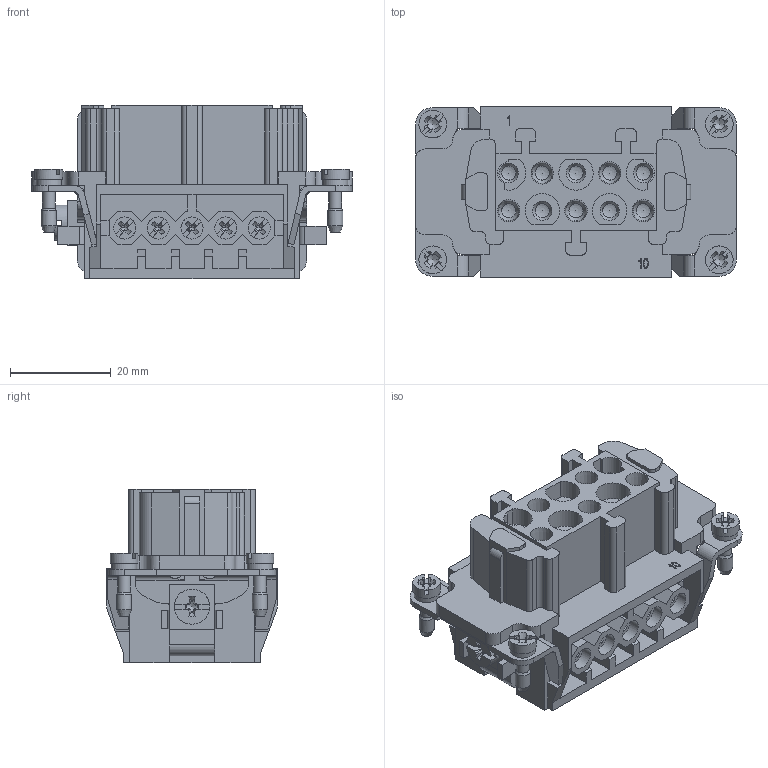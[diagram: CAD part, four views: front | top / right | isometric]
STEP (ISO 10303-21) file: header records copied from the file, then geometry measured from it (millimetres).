
FILE_DESCRIPTION(/* description */ (''),/* implementation_level */ '2;1');
FILE_NAME(/* name */ 'HE-010-F.stp',/* time_stamp */ '2023-07-12T10:15:21+08:00',/* author */ (''),/* organization */ (''),/* preprocessor_version */ 'ST-DEVELOPER v16.7',/* originating_system */ 'SIEMENS PLM Software NX 12.0',/* authorisation */ '');
FILE_SCHEMA (('AUTOMOTIVE_DESIGN { 1 0 10303 214 3 1 1 1 }'));
Products named in the file (1): 09330102701_100094960MOD000D_stp
Bounding box: 63.85 x 33.9 x 34.6 mm (x, y, z)
Surface area: 18970.3 mm2 (no closed solid volume)
Topology: 0 solids, 1 shells, 1652 faces, 4702 edges, 3048 vertices
Faces by surface type: plane 957, bspline 270, cylinder 241, cone 118, extrusion 56, torus 10
Full cylindrical faces by diameter (mm): 2.438 x2, 2.5 x6, 2.8 x9, 2.85 x11, 3 x4, 3.128 x10, 3.2 x11, 4.4 x5, 5 x4, 5.5 x4, 7 x1
Entity records: 74304 total; most frequent: CARTESIAN_POINT 23218, ORIENTED_EDGE 8868, DIRECTION 7078, EDGE_CURVE 4434, VERTEX_POINT 2965, VECTOR 2668, LINE 2612, AXIS2_PLACEMENT_3D 2205
